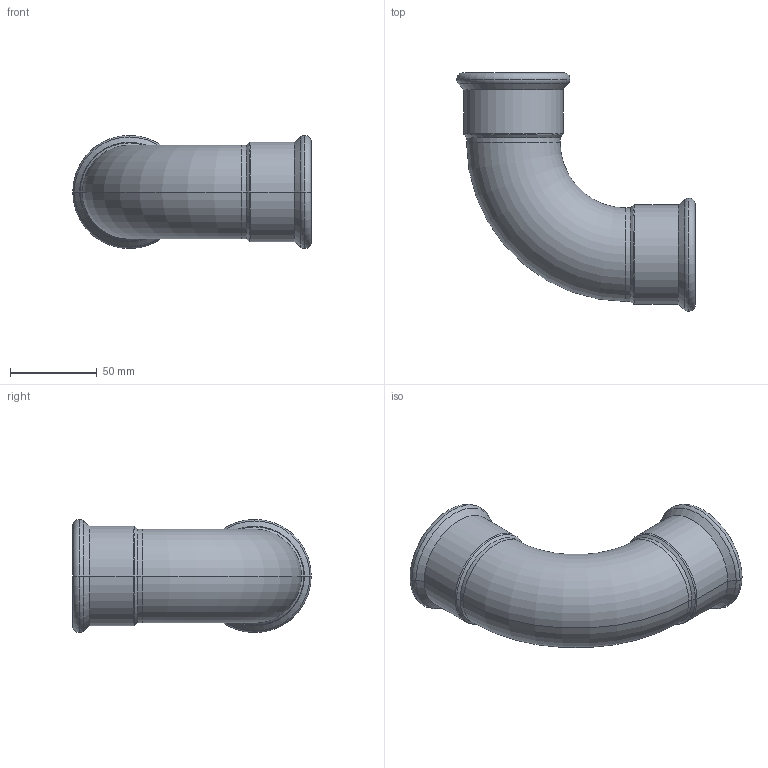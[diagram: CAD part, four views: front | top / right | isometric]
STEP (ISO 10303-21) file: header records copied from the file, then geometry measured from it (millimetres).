
FILE_DESCRIPTION(('CoCreate Modeling STEP Export'),'2;1');
FILE_NAME('C1408 54x54.stp','2014-11-07T16:46:02',(''),(''),'CoCreate Modeling STEP processor for AP214 (Solid Model)','CoCreate Modeling 17.00A 17-Jun-2010 (C) Parametric Technology GmbH','');
FILE_SCHEMA(('AUTOMOTIVE_DESIGN { 1 0 10303 214 1 1 1 1 }'));
Length unit declared in the file: millimetre
Products named in the file (2): C1408_54x54
Assembly tree (1 placements, depth 2):
  C1408_54x54
    C1408_54x54
Bounding box: 137.65 x 137.65 x 65.3 mm (x, y, z)
Volume: 56939 mm3; surface area: 64959.9 mm2
Topology: 1 solids, 1 shells, 50 faces, 105 edges, 61 vertices
Faces by surface type: cylinder 20, torus 16, cone 8, plane 6
Entity records: 1124 total; most frequent: ORIENTED_EDGE 210, DIRECTION 176, CARTESIAN_POINT 163, EDGE_CURVE 105, AXIS2_PLACEMENT_3D 74, VERTEX_POINT 61, EDGE_LOOP 56, FACE_OUTER_BOUND 50
